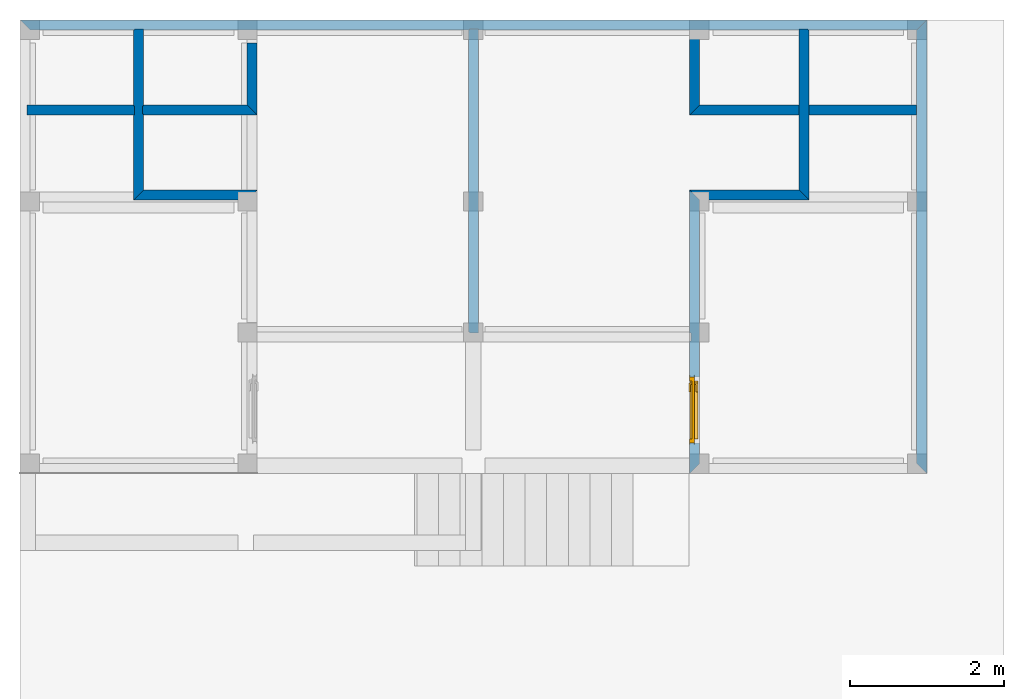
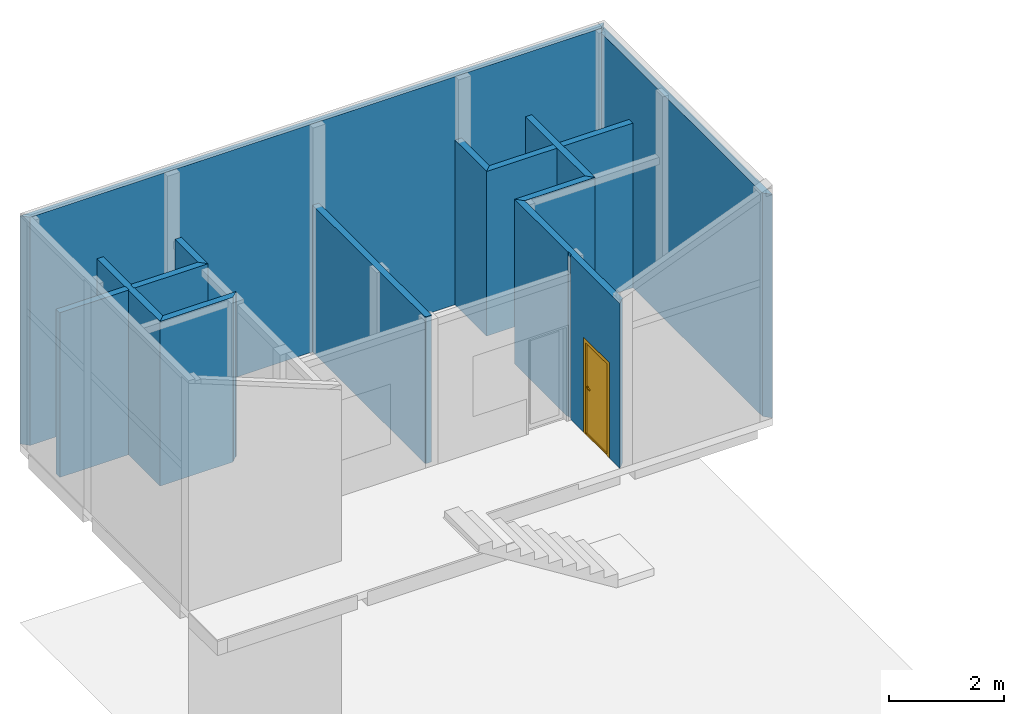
# One storey, part 5 of 8: 13 walls, 1 door, 1 opening.
"""IFC4X3_ADD2 building model written with IfcOpenShell, lengths in millimetres."""

import ifcopenshell
import ifcopenshell.guid

model = None  # the IFC model being written
_history = None  # IfcOwnerHistory: only IFC2X3 demands one
_inside = {}  # id of a spatial element -> (the spatial element, [elements in it])
_under = {}  # id of a project, library or spatial element -> (it, [spatial elements below it])
_declared = {}  # id of a project -> (the project, [libraries it declares])
_typed = {}  # id of a type object -> (the type object, [elements of that type])
_made_of = {}  # id of a material, layer set ... -> (it, [elements and type objects made of it])


def new_model(schema):
    """Start an empty IFC model of exactly this schema.

    Asked for "IFC4X3", IfcOpenShell would pick the latest addendum, in which some entities
    have other attributes; the version numbers below select the first issue.
    IFC2X3 requires an IfcOwnerHistory on every rooted entity: one is made here for all.
    """
    global model, _history
    if schema == "IFC4X3":
        model = ifcopenshell.file(schema_version=(4, 3, 0, 0))
    else:
        model = ifcopenshell.file(schema=schema)
    _inside.clear()
    _under.clear()
    _declared.clear()
    _typed.clear()
    _made_of.clear()
    _history = None
    if model.schema == "IFC2X3":
        org = make("IfcOrganization", Name="unknown")
        user = make(
            "IfcPersonAndOrganization",
            ThePerson=make("IfcPerson", FamilyName="unknown"),
            TheOrganization=org,
        )
        app = make(
            "IfcApplication",
            ApplicationDeveloper=org,
            Version="unknown",
            ApplicationFullName="unknown",
            ApplicationIdentifier="unknown",
        )
        _history = make(
            "IfcOwnerHistory",
            OwningUser=user,
            OwningApplication=app,
            ChangeAction="ADDED",
            CreationDate=0,
        )
    return model


def make(cls, **values):
    """One entity of the class cls with the attributes given. An attribute that is None is left unset."""
    return model.create_entity(
        cls, **{name: value for name, value in values.items() if value is not None}
    )


def entity(cls, *values):
    """Any entity or typed value of the class cls, its attributes in the order of the schema. None: left unset."""
    e = model.create_entity(cls)
    for i, value in enumerate(values):
        if value is not None:
            e[i] = value
    return e


def rooted(cls, **values):
    """An entity with a GlobalId (a new one), such as an element, a storey or a relation."""
    return make(cls, GlobalId=ifcopenshell.guid.new(), OwnerHistory=_history, **values)


def si_unit(unit_type, name, prefix=None):
    """IfcSIUnit, for example si_unit("LENGTHUNIT", "METRE", prefix="MILLI")."""
    return make("IfcSIUnit", UnitType=unit_type, Prefix=prefix, Name=name)


def converted_unit(unit_type, name, factor, base, dimensions=None, offset=None):
    """IfcConversionBasedUnit, such as the inch: factor (a typed value) times the base unit."""
    return make(
        "IfcConversionBasedUnit"
        if offset is None
        else "IfcConversionBasedUnitWithOffset",
        ConversionOffset=offset,
        Dimensions=None
        if dimensions is None
        else entity("IfcDimensionalExponents", *dimensions),
        UnitType=unit_type,
        Name=name,
        ConversionFactor=make(
            "IfcMeasureWithUnit", ValueComponent=factor, UnitComponent=base
        ),
    )


def assignment(units):
    """IfcUnitAssignment: the units of a project."""
    return None if units is None else make("IfcUnitAssignment", Units=units)


def point(xyz):
    """IfcCartesianPoint."""
    return None if xyz is None else make("IfcCartesianPoint", Coordinates=xyz)


def direction(xyz):
    """IfcDirection."""
    return None if xyz is None else make("IfcDirection", DirectionRatios=xyz)


def frame(location, z_axis=None, x_axis=None):
    """IfcAxis2Placement3D, a coordinate frame: its origin and axes. An axis left out is left unset."""
    return make(
        "IfcAxis2Placement3D",
        Location=point(location),
        Axis=direction(z_axis),
        RefDirection=direction(x_axis),
    )


def frame_2d(location, x_axis=None):
    """IfcAxis2Placement2D, a coordinate frame in the plane: its origin and x axis."""
    return make(
        "IfcAxis2Placement2D", Location=point(location), RefDirection=direction(x_axis)
    )


def origin_with_axes():
    """The frame at (0, 0, 0) with the z axis (0, 0, 1) and the x axis (1, 0, 0) written out."""
    return frame((0.0, 0.0, 0.0), z_axis=(0.0, 0.0, 1.0), x_axis=(1.0, 0.0, 0.0))


def origin_2d_with_axis():
    """The frame at (0, 0) in the plane with the x axis (1, 0) written out."""
    return frame_2d((0.0, 0.0), x_axis=(1.0, 0.0))


def place(relative_to, where):
    """IfcLocalPlacement: puts the frame where relative to a parent placement (None: the world)."""
    return make(
        "IfcLocalPlacement", PlacementRelTo=relative_to, RelativePlacement=where
    )


def context(
    kind, dimensions, precision=None, world=None, true_north=None, identifier=None
):
    """IfcGeometricRepresentationContext, for example the 3D "Model" context."""
    return make(
        "IfcGeometricRepresentationContext",
        ContextIdentifier=identifier,
        ContextType=kind,
        CoordinateSpaceDimension=dimensions,
        Precision=precision,
        WorldCoordinateSystem=world,
        TrueNorth=true_north,
    )


def subcontext(parent, identifier, kind, view, scale=None):
    """IfcGeometricRepresentationSubContext, for example "Body" below "Model"."""
    return make(
        "IfcGeometricRepresentationSubContext",
        ContextIdentifier=identifier,
        ContextType=kind,
        ParentContext=parent,
        TargetScale=scale,
        TargetView=view,
    )


def project(units=None, contexts=None):
    """IfcProject with its units and contexts."""
    return rooted(
        "IfcProject",
        Name="project",
        RepresentationContexts=contexts,
        UnitsInContext=assignment(units),
    )


def spatial(cls, under=None, at=None, **own):
    """A site, building, storey or space (cls), placed at a placement, below another one or the project."""
    s = rooted(cls, ObjectPlacement=at, **own)
    if under is not None:
        _under.setdefault(under.id(), (under, []))[1].append(s)
    return s


def point_list(points):
    """IfcCartesianPointList2D or 3D."""
    cls = (
        "IfcCartesianPointList2D" if len(points[0]) == 2 else "IfcCartesianPointList3D"
    )
    return make(cls, CoordList=points)


def line(*indices):
    """IfcLineIndex: a straight run through numbered points of an indexed curve."""
    return model.create_entity("IfcLineIndex", indices)


def indexed_curve(points, segments=None, self_intersect=None):
    """IfcIndexedPolyCurve: lines and arcs through numbered points (the first is 1)."""
    return make(
        "IfcIndexedPolyCurve",
        Points=point_list(points),
        Segments=segments,
        SelfIntersect=self_intersect,
    )


def outline(outer, holes=None, kind="AREA"):
    """IfcArbitraryClosedProfileDef: a profile drawn as a closed curve; with holes, ...WithVoids."""
    if holes is None:
        return make("IfcArbitraryClosedProfileDef", ProfileType=kind, OuterCurve=outer)
    return make(
        "IfcArbitraryProfileDefWithVoids",
        ProfileType=kind,
        OuterCurve=outer,
        InnerCurves=holes,
    )


def extrude(swept, where, along, depth):
    """IfcExtrudedAreaSolid: the profile swept, set in the frame where, extruded along a direction by depth."""
    return make(
        "IfcExtrudedAreaSolid",
        SweptArea=swept,
        Position=where,
        ExtrudedDirection=direction(along),
        Depth=depth,
    )


def shape(context_of_items, identifier, shape_type, items):
    """IfcShapeRepresentation: the items that make up one representation, for example the "Body"."""
    return make(
        "IfcShapeRepresentation",
        ContextOfItems=context_of_items,
        RepresentationIdentifier=identifier,
        RepresentationType=shape_type,
        Items=items,
    )


def source(mapping_origin, context_of_items, identifier, shape_type, items):
    """IfcRepresentationMap: a shape defined once, which mapped items show again and again."""
    return make(
        "IfcRepresentationMap",
        MappingOrigin=mapping_origin,
        MappedRepresentation=shape(context_of_items, identifier, shape_type, items),
    )


def transform(
    local_origin,
    x_axis=None,
    y_axis=None,
    z_axis=None,
    scale=None,
    scale2=None,
    scale3=None,
    uniform=True,
):
    """IfcCartesianTransformationOperator3D, or its non-uniform kind. x_axis, y_axis, z_axis: its Axis1, 2, 3."""
    if uniform:
        return make(
            "IfcCartesianTransformationOperator3D",
            Axis1=direction(x_axis),
            Axis2=direction(y_axis),
            LocalOrigin=point(local_origin),
            Scale=scale,
            Axis3=direction(z_axis),
        )
    return make(
        "IfcCartesianTransformationOperator3DnonUniform",
        Axis1=direction(x_axis),
        Axis2=direction(y_axis),
        LocalOrigin=point(local_origin),
        Scale=scale,
        Axis3=direction(z_axis),
        Scale2=scale2,
        Scale3=scale3,
    )


def mapped(mapping_source, mapping_target):
    """IfcMappedItem: shows the shape of a source again, moved by a transform."""
    return make(
        "IfcMappedItem", MappingSource=mapping_source, MappingTarget=mapping_target
    )


def material(Name=None, Category=None):
    """IfcMaterial."""
    return make("IfcMaterial", Name=Name, Category=Category)


def layer(
    of_material, thickness, ventilated=None, Name=None, Category=None, Priority=None
):
    """IfcMaterialLayer: one layer of a wall or slab, of a material (None: an air gap)."""
    return make(
        "IfcMaterialLayer",
        Material=of_material,
        LayerThickness=thickness,
        IsVentilated=ventilated,
        Name=Name,
        Category=Category,
        Priority=Priority,
    )


def layer_set(layers, Name=None):
    """IfcMaterialLayerSet."""
    return make("IfcMaterialLayerSet", MaterialLayers=layers, LayerSetName=Name)


def layer_usage(for_layer_set, set_direction, sense, offset, extent=None):
    """IfcMaterialLayerSetUsage: how a layer set lies in its element."""
    return make(
        "IfcMaterialLayerSetUsage",
        ForLayerSet=for_layer_set,
        LayerSetDirection=set_direction,
        DirectionSense=sense,
        OffsetFromReferenceLine=offset,
        ReferenceExtent=extent,
    )


def made_of(thing, what):
    """Note that an element or type object is made of a material, layer set ...; save() writes the relation."""
    if what is not None:
        _made_of.setdefault(what.id(), (what, []))[1].append(thing)
    return thing


def type_object(cls, material=None, **own):
    """A type object (cls), such as IfcWallType, which elements share."""
    return made_of(rooted(cls, **own), material)


def type_shapes(of_type, sources):
    """Give a type object the sources (RepresentationMaps) that its elements show as mapped items."""
    of_type.RepresentationMaps = sources


def element(
    cls,
    number,
    at=None,
    inside=None,
    cuts=None,
    type_object=None,
    material=None,
    context=None,
    identifier="Body",
    shape_type=None,
    held_by="IfcProductDefinitionShape",
    body=None,
    shapes=None,
    **own,
):
    """One element of the class cls, such as IfcWall. Its Tag is "e" and its number.

    at: its placement. inside: the storey or other place that contains it. cuts: it is an
    opening in that element (IfcRelVoidsElement). A single representation is given by context,
    identifier, shape_type and body (its items); several are given by shapes. held_by: the class
    of the entity that holds the representations. save() writes the other relations.
    """
    e = rooted(cls, Tag="e%d" % number, ObjectPlacement=at, **own)
    if body is not None:
        shapes = [shape(context, identifier, shape_type, body)]
    if shapes is not None:
        e.Representation = make(held_by, Representations=shapes)
    if inside is not None:
        _inside.setdefault(inside.id(), (inside, []))[1].append(e)
    if cuts is not None:
        rooted(
            "IfcRelVoidsElement", RelatingBuildingElement=cuts, RelatedOpeningElement=e
        )
    if type_object is not None:
        _typed.setdefault(type_object.id(), (type_object, []))[1].append(e)
    return made_of(e, material)


def fill(opening, filler):
    """IfcRelFillsElement: the door or window that sits in an opening."""
    return rooted(
        "IfcRelFillsElement",
        RelatingOpeningElement=opening,
        RelatedBuildingElement=filler,
    )


def aggregate(whole, parts):
    """IfcRelAggregates: a whole, such as a stair, and the parts it consists of."""
    return rooted("IfcRelAggregates", RelatingObject=whole, RelatedObjects=parts)


def save(model, path):
    """Write the relations noted so far, then the file.

    IfcRelAggregates (storeys below a building ...), IfcRelContainedInSpatialStructure (elements
    in a storey), IfcRelDefinesByType, IfcRelAssociatesMaterial and IfcRelDeclares: one each for
    every whole, place, type object, material and project.
    """
    for whole, parts in _under.values():
        aggregate(whole, parts)
    for where, things in _inside.values():
        rooted(
            "IfcRelContainedInSpatialStructure",
            RelatedElements=things,
            RelatingStructure=where,
        )
    for kind, things in _typed.values():
        rooted("IfcRelDefinesByType", RelatedObjects=things, RelatingType=kind)
    for what, things in _made_of.values():
        rooted("IfcRelAssociatesMaterial", RelatedObjects=things, RelatingMaterial=what)
    for by, libraries in _declared.values():
        rooted("IfcRelDeclares", RelatingContext=by, RelatedDefinitions=libraries)
    model.write(path)


model = new_model("IFC4X3_ADD2")

# Units and contexts
model_context = context("Model", 3, precision=1e-05, world=origin_with_axes())
plan_context = context("Plan", 2, precision=1e-05, world=origin_2d_with_axis())
body_context_1 = subcontext(model_context, "Body", "Model", "MODEL_VIEW")
body_context_2 = subcontext(plan_context, "Body", "Plan", "PLAN_VIEW")
ifc_project = project(units=[si_unit("VOLUMEUNIT", "CUBIC_METRE"), si_unit("LENGTHUNIT", "METRE", prefix="MILLI"), converted_unit("PLANEANGLEUNIT", "degree", entity("IfcReal", 0.0174532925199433), si_unit("PLANEANGLEUNIT", "RADIAN"), dimensions=[0, 0, 0, 0, 0, 0, 0]), si_unit("AREAUNIT", "SQUARE_METRE")], contexts=[model_context, plan_context])

# Site, building, storey
site_placement = place(None, origin_with_axes())
site = spatial("IfcSite", under=ifc_project, at=site_placement, Name="My Site")
building_placement = place(site_placement, origin_with_axes())
building = spatial("IfcBuilding", under=site, at=building_placement, Name="My Building")
storey_placement = place(building_placement, origin_with_axes())
storey = spatial("IfcBuildingStorey", under=building, at=storey_placement, Name="Lantai 2")

# Walls
ifc_material_1 = material(Name="plester")
ifc_layer_1 = layer(ifc_material_1, 15.0000009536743, Priority=1)
ifc_material_2 = material(Name="brick", Category="Uncategorised")
ifc_layer_2 = layer(ifc_material_2, 100.0, Priority=4)
ifc_layer_3 = layer(ifc_material_1, 15.0000009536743)
ifc_layer_set = layer_set([ifc_layer_1, ifc_layer_2, ifc_layer_3])
ifc_layer_usage_1 = layer_usage(ifc_layer_set, "AXIS2", "NEGATIVE", 0.0)
wall_type = type_object("IfcWallType", Name="WALL-130", PredefinedType="SOLIDWALL", material=ifc_layer_set)
wall_1_placement = place(storey_placement, frame((-149.998873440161, 5719.99979019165, 3500.00023841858), z_axis=(0.0, 0.0, 1.0), x_axis=(1.0, 0.0, 0.0)))
element("IfcWall", 1, at=wall_1_placement, inside=storey, type_object=wall_type, material=ifc_layer_usage_1, Name="Wall", context=body_context_1, shape_type="SweptSolid", body=[
    extrude(outline(indexed_curve([(129.999976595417, -130.000001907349), (114.99997856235, -115.000000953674), (14.9999980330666, -15.0000009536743), (0.0, 0.0), (11739.9990260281, 0.0), (11724.9990262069, -15.0000009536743), (11624.9990337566, -115.000000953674), (11609.9990339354, -130.000001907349), (8785.00033472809, -130.000001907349), (8785.00033543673, -115.000000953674), (8670.00033448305, -115.000000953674), (8670.00033377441, -130.000001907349), (10084.9988823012, -130.000001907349), (10084.9988811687, -115.000000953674), (10199.9988821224, -115.000000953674), (10199.9988832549, -130.000001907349), (1484.99922467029, -130.000001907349), (1484.99922353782, -115.000000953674), (1599.9992244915, -115.000000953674), (1599.99922562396, -130.000001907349), (5819.99992613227, -130.000001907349), (5819.99992905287, -115.000000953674), (5934.99993000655, -115.000000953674), (5934.99992708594, -130.000001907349)], segments=[line(1, 2, 3, 4, 5, 6, 7, 8, 9, 10, 11, 12, 13, 14, 15, 16, 17, 18, 19, 20, 21, 22, 23, 24, 1)])), origin_with_axes(), (0.0, 0.0, 1.0), 4850.00038146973),
])
ifc_layer_usage_2 = layer_usage(ifc_layer_set, "AXIS2", "POSITIVE", -65.0)
wall_2_placement = place(storey_placement, frame((1515.0004312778, 4554.99982833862, 3500.00023841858), z_axis=(0.0, 0.0, 1.0), x_axis=(1.0, 0.0, 0.0)))
element("IfcWall", 2, at=wall_2_placement, inside=storey, type_object=wall_type, material=ifc_layer_usage_2, Name="Wall", context=body_context_1, shape_type="SweptSolid", body=[
    extrude(outline(indexed_curve([(-64.9999960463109, -65.0), (-64.9999971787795, -49.9999990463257), (-79.9999981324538, -49.9999990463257), (-80.000005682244, 50.0000009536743), (-65.0000047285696, 50.0000009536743), (-65.0000058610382, 65.0000019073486), (1275.00029287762, 65.0000019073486), (1290.00030390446, 50.0000009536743), (1390.00037105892, -49.9999990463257), (1405.00038208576, -65.0)], segments=[line(1, 2, 3, 4, 5, 6, 7, 8, 9, 10, 1)])), origin_with_axes(), (0.0, 0.0, 1.0), 3500.00023841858),
])
ifc_layer_usage_3 = layer_usage(ifc_layer_set, "AXIS2", "POSITIVE", -65.0000009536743)
wall_3_placement = place(storey_placement, frame((8520.00141143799, 4554.99982833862, 3500.00023841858), z_axis=(0.0, 0.0, 1.0), x_axis=(1.0, 0.0, 0.0)))
element("IfcWall", 3, at=wall_3_placement, inside=storey, type_object=wall_type, material=ifc_layer_usage_3, Name="Wall", context=body_context_1, shape_type="SweptSolid", body=[
    extrude(outline(indexed_curve([(-3.07077987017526e-06, -65.0000009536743), (14.9999985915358, -50.0), (115.000003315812, 50.0), (130.000004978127, 65.0000009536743), (2939.99853515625, 65.0000009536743), (2939.99853515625, -65.0000009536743)], segments=[line(1, 2, 3, 4, 5, 6, 1)])), origin_with_axes(), (0.0, 0.0, 1.0), 3500.00023841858),
])
ifc_layer_usage_4 = layer_usage(ifc_layer_set, "AXIS2", "POSITIVE", -65.0000009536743)
wall_4_placement = place(storey_placement, frame((10000.0, 5719.99979019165, 3500.00023841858), z_axis=(0.0, 0.0, 1.0), x_axis=(7.54979012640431e-08, -0.999999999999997, 0.0)))
element("IfcWall", 4, at=wall_4_placement, inside=storey, type_object=wall_type, material=ifc_layer_usage_4, Name="Wall", context=body_context_1, shape_type="SweptSolid", body=[
    extrude(outline(indexed_curve([(114.999996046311, -65.0000009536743), (114.99999717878, -50.0), (115.00000472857, 50.0), (130.000005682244, 50.0), (130.000006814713, 65.0000009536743), (2329.99981607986, 65.0000009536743), (2314.99981399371, 50.0), (2214.99980644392, -50.0), (2199.99980435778, -65.0000009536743)], segments=[line(1, 2, 3, 4, 5, 6, 7, 8, 9, 1)])), origin_with_axes(), (0.0, 0.0, 1.0), 3500.00023841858),
])
ifc_layer_usage_5 = layer_usage(ifc_layer_set, "AXIS2", "NEGATIVE", 0.0)
wall_5_placement = place(storey_placement, frame((11590.0001525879, 5719.99979019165, 3500.00023841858), z_axis=(0.0, 0.0, 1.0), x_axis=(7.54979012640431e-08, -0.999999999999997, 0.0)))
element("IfcWall", 5, at=wall_5_placement, inside=storey, type_object=wall_type, material=ifc_layer_usage_5, Name="Wall", context=body_context_1, shape_type="SweptSolid", body=[
    extrude(outline(indexed_curve([(129.999992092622, -130.000001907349), (114.999992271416, -115.000000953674), (14.9999998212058, -15.0000009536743), (0.0, 0.0), (5869.9997961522, 0.0), (5854.99979180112, -15.0000009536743), (5754.99976915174, -115.000000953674), (5739.99976480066, -130.000001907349)], segments=[line(1, 2, 3, 4, 5, 6, 7, 8, 1)])), origin_with_axes(), (0.0, 0.0, 1.0), 4748.53610992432),
])
ifc_layer_usage_6 = layer_usage(ifc_layer_set, "AXIS2", "NEGATIVE", -65.0000009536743)
wall_6_placement = place(storey_placement, frame((1515.00034332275, 5719.99979019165, 3500.00023841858), z_axis=(0.0, 0.0, 1.0), x_axis=(7.54979012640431e-08, -0.999999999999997, 0.0)))
element("IfcWall", 6, at=wall_6_placement, inside=storey, type_object=wall_type, material=ifc_layer_usage_6, Name="Wall", context=body_context_1, shape_type="SweptSolid", body=[
    extrude(outline(indexed_curve([(129.999987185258, -195.000002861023), (129.999988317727, -180.000001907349), (114.999987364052, -180.000001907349), (114.999994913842, -80.0000019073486), (114.999996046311, -65.0000009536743), (1114.999955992, -65.0000009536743), (1114.99995485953, -80.0000019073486), (1214.99995485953, -80.0000019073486), (1214.999955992, -65.0000009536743), (2199.99968991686, -65.0000009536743), (2214.99968973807, -80.0000019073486), (2314.99968218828, -180.000001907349), (2329.99968200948, -195.000002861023), (1229.99994713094, -195.000002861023), (1229.99994826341, -180.000001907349), (1114.99994730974, -180.000001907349), (1114.99994617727, -195.000002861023)], segments=[line(1, 2, 3, 4, 5, 6, 7, 8, 9, 10, 11, 12, 13, 14, 15, 16, 17, 1)])), origin_with_axes(), (0.0, 0.0, 1.0), 3500.00023841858),
])
ifc_layer_usage_7 = layer_usage(ifc_layer_set, "AXIS2", "POSITIVE", -65.0)
wall_7_placement = place(storey_placement, frame((-59.8487923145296, 4554.99982833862, 3500.00023841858), z_axis=(0.0, 0.0, 1.0), x_axis=(1.0, 0.0, 0.0)))
element("IfcWall", 7, at=wall_7_placement, inside=storey, type_object=wall_type, material=ifc_layer_usage_7, Name="Wall", context=body_context_1, shape_type="SweptSolid", body=[
    extrude(outline(indexed_curve([(0.0, -65.0), (0.0, 65.0000019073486), (1379.84921582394, 65.0000019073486), (1379.84921695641, 50.0000009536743), (1394.84921791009, 50.0000009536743), (1394.84922545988, -49.9999990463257), (1394.84922659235, -65.0)], segments=[line(1, 2, 3, 4, 5, 6, 7, 1)])), origin_with_axes(), (0.0, 0.0, 1.0), 3500.00023841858),
])
ifc_layer_usage_8 = layer_usage(ifc_layer_set, "AXIS2", "NEGATIVE", -130.000001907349)
wall_8_placement = place(storey_placement, frame((3050.00019073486, 5419.99959945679, 3500.00023841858), z_axis=(0.0, 0.0, 1.0), x_axis=(6.71544341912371e-07, -0.999999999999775, 0.0)))
element("IfcWall", 8, at=wall_8_placement, inside=storey, type_object=wall_type, material=ifc_layer_usage_8, Name="Wall", context=body_context_1, shape_type="SweptSolid", body=[
    extrude(outline(indexed_curve([(0.0, -260.000003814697), (0.0, -130.000001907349), (929.999683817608, -130.000001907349), (914.999672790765, -145.000002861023), (814.999605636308, -245.000002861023), (799.999594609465, -260.000003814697)], segments=[line(1, 2, 3, 4, 5, 6, 1)])), origin_with_axes(), (0.0, 0.0, 1.0), 3500.00023841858),
])
ifc_layer_usage_9 = layer_usage(ifc_layer_set, "AXIS2", "NEGATIVE", 0.0)
wall_9_placement = place(storey_placement, frame((8520.00134413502, 3519.99998092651, 3500.00023841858), z_axis=(0.0, 0.0, 1.0), x_axis=(1.0, 0.0, 0.0)))
element("IfcWall", 9, at=wall_9_placement, inside=storey, type_object=wall_type, material=ifc_layer_usage_9, Name="Wall", context=body_context_1, shape_type="SweptSolid", body=[
    extrude(outline(indexed_curve([(129.999970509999, -130.000001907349), (114.999973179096, -115.000000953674), (14.999997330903, -15.0000009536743), (0.0, 0.0), (1414.99882100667, 0.0), (1429.99882309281, -15.0000009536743), (1529.99883064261, -115.000000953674), (1544.99883272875, -130.000001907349)], segments=[line(1, 2, 3, 4, 5, 6, 7, 8, 1)])), origin_with_axes(), (0.0, 0.0, 1.0), 3500.00023841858),
])

# Wall, opening, door
ifc_layer_usage_10 = layer_usage(ifc_layer_set, "AXIS2", "NEGATIVE", 0.0)
wall_10_placement = place(storey_placement, frame((8520.00045776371, -149.999542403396, 3500.00023841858), z_axis=(0.0, 0.0, 1.0), x_axis=(1.94707183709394e-07, 0.999999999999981, 0.0)))
wall_10 = element("IfcWall", 10, at=wall_10_placement, inside=storey, type_object=wall_type, material=ifc_layer_usage_10, Name="Wall", context=body_context_1, shape_type="SweptSolid", body=[
    extrude(outline(indexed_curve([(130.000007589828, -130.000001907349), (115.000005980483, -115.000000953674), (15.0000016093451, -15.0000009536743), (0.0, 0.0), (1714.99937646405, 0.0), (1714.99937711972, -15.0000009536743), (1814.99937711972, -15.0000009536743), (1814.99937646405, 0.0), (3669.99952332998, 0.0), (3654.99952529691, -15.0000009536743), (3554.99954476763, -115.000000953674), (3539.99954673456, -130.000001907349)], segments=[line(1, 2, 3, 4, 5, 6, 7, 8, 9, 10, 11, 12, 1)])), origin_with_axes(), (0.0, 0.0, 1.0), 3500.00023841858),
])
shared_shape_1 = source(origin_with_axes(), body_context_1, "Body", "SweptSolid", [
    extrude(outline(indexed_curve([(0.0, 0.0), (850.0, 0.0), (850.0, 2000.0), (0.0, 2000.0)], segments=[line(1, 2, 3, 4, 1)])), frame((0.0, -600.0, 0.0), z_axis=(0.0, -1.0, 0.0), x_axis=(1.0, 0.0, 0.0)), (0.0, 0.0, -1.0), 1200.0),
])
opening_placement = place(wall_10_placement, frame((1246.26342011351, 39.9982971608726, 0.0), z_axis=(0.0, 0.0, 1.0), x_axis=(-0.999999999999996, 8.74227907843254e-08, 0.0)))
opening = element("IfcOpeningElement", 11, at=opening_placement, cuts=wall_10, Name="Opening", PredefinedType="OPENING", context=body_context_1, shape_type="MappedRepresentation", body=[
    mapped(shared_shape_1, transform((0.0, 0.0, 0.0), x_axis=(1.0, 0.0, 0.0), y_axis=(0.0, 1.0, 0.0), z_axis=(0.0, 0.0, 1.0), scale=1.0)),
])
door_type = type_object("IfcDoorType", Name="D01 R", OperationType="SINGLE_SWING_LEFT", PredefinedType="DOOR")
shared_shape_2 = source(origin_with_axes(), body_context_1, "Body", "SweptSolid", [
    extrude(outline(indexed_curve([(0.0, 0.0), (0.0, 2000.0), (850.000023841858, 2000.0), (850.000023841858, 0.0), (825.000023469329, 0.0), (825.000023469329, 1974.99999962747), (25.000000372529, 1974.99999962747), (25.000000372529, 0.0)], segments=[line(1, 2, 3, 4, 5, 6, 7, 8, 1)])), frame((0.0, 25.000000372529, 0.0), z_axis=(0.0, -1.0, 0.0), x_axis=(1.0, 0.0, 0.0)), (0.0, 0.0, -1.0), 25.000000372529),
    extrude(outline(indexed_curve([(0.0, 0.0), (0.0, 2000.0), (850.000023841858, 2000.0), (850.000023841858, 0.0), (800.0000230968, 0.0), (800.0000230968, 1949.99999925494), (50.0000007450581, 1949.99999925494), (50.0000007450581, 0.0)], segments=[line(1, 2, 3, 4, 5, 6, 7, 8, 1)])), frame((0.0, 0.0, 0.0), z_axis=(0.0, -1.0, 0.0), x_axis=(1.0, 0.0, 0.0)), (0.0, 0.0, -1.0), 25.000000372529),
    extrude(outline(indexed_curve([(0.0, 0.0), (800.0000230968, 0.0), (800.0000230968, 35.0000001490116), (0.0, 35.0000001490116)], segments=[line(1, 2, 3, 4, 1)])), frame((25.000000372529, 25.000000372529, 25.000000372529), z_axis=(0.0, 0.0, 1.0), x_axis=(1.0, 0.0, 0.0)), (0.0, 0.0, 1.0), 1949.99999925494),
    extrude(outline(indexed_curve([(0.0, 0.0), (0.0, -40.0), (120.0, -40.0), (120.0, -20.0), (20.0, -20.0), (20.0, 0.0)], segments=[line(1, 2, 3, 4, 5, 6, 1)])), frame((75.000000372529, 25.000000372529, 1015.00000037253), z_axis=(0.0, 0.0, 1.0), x_axis=(1.0, 0.0, 0.0)), (0.0, 0.0, 1.0), 20.0),
    extrude(outline(indexed_curve([(0.0, 0.0), (0.0, 40.0), (120.0, 40.0), (120.0, 20.0), (20.0, 20.0), (20.0, 0.0)], segments=[line(1, 2, 3, 4, 5, 6, 1)])), frame((75.000000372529, 60.0000005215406, 1015.00000037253), z_axis=(0.0, 0.0, 1.0), x_axis=(1.0, 0.0, 0.0)), (0.0, 0.0, 1.0), 20.0),
    extrude(outline(indexed_curve([(0.0, 0.0), (750.000022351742, 0.0), (750.000022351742, 100.000001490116), (0.0, 100.000001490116)], segments=[line(1, 2, 3, 4, 1)])), frame((50.0000007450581, 0.0, 0.0), z_axis=(0.0, 0.0, 1.0), x_axis=(1.0, 0.0, 0.0)), (0.0, 0.0, 1.0), 25.000000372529),
    extrude(outline(indexed_curve([(0.0, 0.0), (0.0, 2025.00000223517), (900.000028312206, 2025.00000223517), (900.000028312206, 0.0), (825.000025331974, 0.0), (825.000025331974, 1949.99999925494), (75.0000029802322, 1949.99999925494), (75.0000029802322, 0.0)], segments=[line(1, 2, 3, 4, 5, 6, 7, 8, 1)])), frame((-25.0000022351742, -4.99999988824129, 0.0), z_axis=(0.0, -1.0, 0.0), x_axis=(1.0, 0.0, 0.0)), (0.0, 0.0, -1.0), 4.99999988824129),
    extrude(outline(indexed_curve([(0.0, 0.0), (0.0, 2025.00000223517), (900.000028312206, 2025.00000223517), (900.000028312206, 0.0), (850.000025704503, 0.0), (850.000025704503, 1974.99999962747), (50.0000026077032, 1974.99999962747), (50.0000026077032, 0.0)], segments=[line(1, 2, 3, 4, 5, 6, 7, 8, 1)])), frame((-25.0000022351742, 50.0000007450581, 0.0), z_axis=(0.0, -1.0, 0.0), x_axis=(1.0, 0.0, 0.0)), (0.0, 0.0, -1.0), 4.99999988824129),
])
shared_shape_3 = source(origin_with_axes(), body_context_2, "Body", "Curve2D", [
    entity("IfcIndexedPolyCurve", entity("IfcCartesianPointList2D", [[0.0, 0.0], [0.0, 50.0000007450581], [25.000000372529, 50.0000007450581], [25.000000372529, 25.000000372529], [50.0000007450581, 25.000000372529], [50.0000007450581, 0.0]]), [entity("IfcLineIndex", [1, 2, 3, 4, 5, 6, 1])]),
    entity("IfcIndexedPolyCurve", entity("IfcCartesianPointList2D", [[850.000023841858, 0.0], [850.000023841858, 50.0000007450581], [825.000023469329, 50.0000007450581], [825.000023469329, 25.000000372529], [800.0000230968, 25.000000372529], [800.0000230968, 0.0]]), [entity("IfcLineIndex", [1, 2, 3, 4, 5, 6, 1])]),
    entity("IfcTrimmedCurve", entity("IfcEllipse", entity("IfcAxis2Placement2D", entity("IfcCartesianPoint", [790.000023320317, 50.0000007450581]), entity("IfcDirection", [1.0, 0.0])), 765.000022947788, 800.0000230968), [entity("IfcCartesianPoint", [790.000023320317, 850.000023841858])], [entity("IfcCartesianPoint", [25.000000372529, 50.0000007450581])], True, "CARTESIAN"),
    entity("IfcIndexedPolyCurve", entity("IfcCartesianPointList2D", [[825.000023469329, 50.0000007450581], [790.000023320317, 50.0000007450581], [790.000023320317, 850.000023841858], [825.000023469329, 850.000023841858]]), [entity("IfcLineIndex", [1, 2, 3, 4, 1])]),
])
type_shapes(door_type, [shared_shape_2, shared_shape_3])
door_placement = place(opening_placement, frame((-1.2695332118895e-05, 44.9981689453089, 0.0), z_axis=(0.0, 0.0, 1.0), x_axis=(1.0, -5.29395592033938e-23, 0.0)))
door = element("IfcDoor", 12, at=door_placement, inside=storey, type_object=door_type, Name="Door", OverallHeight=2000.0, OverallWidth=850.000023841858, shapes=[
    shape(body_context_1, "Body", "MappedRepresentation", [mapped(shared_shape_2, transform((0.0, 0.0, 0.0), x_axis=(1.0, 0.0, 0.0), y_axis=(0.0, 1.0, 0.0), z_axis=(0.0, 0.0, 1.0), scale=1.0))]),
    shape(body_context_2, "Body", "MappedRepresentation", [mapped(shared_shape_3, transform((0.0, 0.0, 0.0), x_axis=(1.0, 0.0, 0.0), y_axis=(0.0, 1.0, 0.0), z_axis=(0.0, 0.0, 1.0), scale=1.0))]),
])
fill(opening, door)

# Walls
ifc_layer_usage_11 = layer_usage(ifc_layer_set, "AXIS2", "NEGATIVE", -130.0)
wall_11_placement = place(storey_placement, frame((1515.00049960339, 3650.00009536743, 3500.00023841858), z_axis=(0.0, 0.0, 1.0), x_axis=(1.0, 0.0, 0.0)))
element("IfcWall", 13, at=wall_11_placement, inside=storey, type_object=wall_type, material=ifc_layer_usage_11, Name="Wall", context=body_context_1, shape_type="SweptSolid", body=[
    extrude(outline(indexed_curve([(-194.999983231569, -260.000001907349), (-179.999983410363, -245.000000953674), (-79.9999909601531, -145.000000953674), (-64.9999911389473, -130.0), (1405.00026786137, -130.0), (1405.00026494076, -145.000000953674), (1390.00026398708, -145.000000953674), (1290.00024451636, -245.000000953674), (1275.00024356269, -245.000000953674), (1275.00024064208, -260.000001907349)], segments=[line(1, 2, 3, 4, 5, 6, 7, 8, 9, 10, 1)])), origin_with_axes(), (0.0, 0.0, 1.0), 3500.00023841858),
])
ifc_layer_usage_12 = layer_usage(ifc_layer_set, "AXIS2", "POSITIVE", -65.0)
wall_12_placement = place(storey_placement, frame((5720.00026702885, 1550.00025589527, 3500.00023841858), z_axis=(0.0, 0.0, 1.0), x_axis=(1.94707183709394e-07, 0.999999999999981, 0.0)))
element("IfcWall", 14, at=wall_12_placement, inside=storey, type_object=wall_type, material=ifc_layer_usage_12, Name="Wall", context=body_context_1, shape_type="SweptSolid", body=[
    extrude(outline(indexed_curve([(115.000003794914, -65.0), (115.000003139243, -49.9999990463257), (114.999998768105, 50.0000009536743), (129.99999972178, 50.0000009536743), (129.999999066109, 65.0000019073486), (4039.99951973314, 65.0000019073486), (4039.99952265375, 50.0000009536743), (4054.99952360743, 50.0000009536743), (4054.99954307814, -49.9999990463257), (4054.99954599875, -65.0)], segments=[line(1, 2, 3, 4, 5, 6, 7, 8, 9, 10, 1)])), origin_with_axes(), (0.0, 0.0, 1.0), 3120.00012397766),
])
ifc_layer_usage_13 = layer_usage(ifc_layer_set, "AXIS2", "NEGATIVE", 0.0)
wall_13_placement = place(storey_placement, frame((8520.00141143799, 4554.99982833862, 3500.00023841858), z_axis=(0.0, 0.0, 1.0), x_axis=(1.94707183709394e-07, 0.999999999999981, 0.0)))
element("IfcWall", 15, at=wall_13_placement, inside=storey, type_object=wall_type, material=ifc_layer_usage_13, Name="Wall", context=body_context_1, shape_type="SweptSolid", body=[
    extrude(outline(indexed_curve([(65.0000262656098, -130.000001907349), (50.0000223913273, -115.000000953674), (-49.999997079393, -15.0000009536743), (-65.0000009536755, 0.0), (1049.99996089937, 0.0), (1049.99996381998, -15.0000009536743), (1049.9999832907, -115.000000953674), (1034.99998233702, -115.000000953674), (1034.99998525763, -130.000001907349)], segments=[line(1, 2, 3, 4, 5, 6, 7, 8, 9, 1)])), origin_with_axes(), (0.0, 0.0, 1.0), 3500.00023841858),
])

save(model, "model.ifc")
